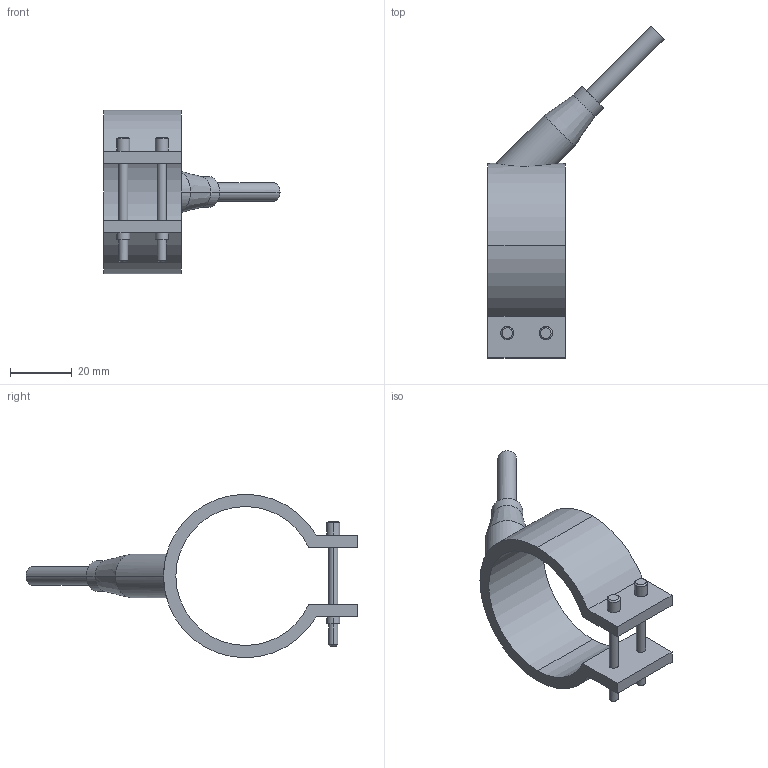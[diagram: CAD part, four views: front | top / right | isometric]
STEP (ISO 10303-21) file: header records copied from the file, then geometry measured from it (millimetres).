
FILE_DESCRIPTION(('CATIA V5 STEP Exchange'),'2;1');
FILE_NAME('C:\Users\Utente\Desktop\IO LAVORO\3D X SITO CF\X SITO\PLASTICA\RF1\29045025.stp','2021-03-27T09:36:52+00:00',('none'),('none'),'CATIA Version 5 Release 20 GA (IN-10)','CATIA V5 STEP AP203','none');
FILE_SCHEMA(('CONFIG_CONTROL_DESIGN'));
Length unit declared in the file: millimetre
Products named in the file (1): 29045025
Bounding box: 57.05 x 107.55 x 53 mm (x, y, z)
Volume: 21367.4 mm3; surface area: 11776.5 mm2
Topology: 1 solids, 1 shells, 54 faces, 122 edges, 78 vertices
Faces by surface type: cylinder 28, plane 16, cone 10
Entity records: 1726 total; most frequent: CARTESIAN_POINT 499, ORIENTED_EDGE 244, DIRECTION 213, EDGE_CURVE 122, AXIS2_PLACEMENT_3D 106, VERTEX_POINT 78, EDGE_LOOP 66, VECTOR 56
